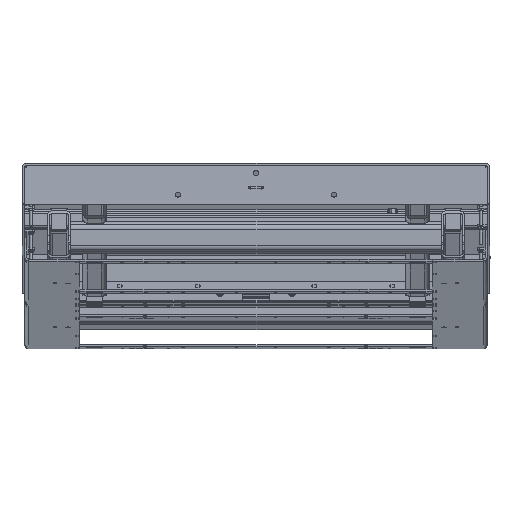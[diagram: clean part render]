
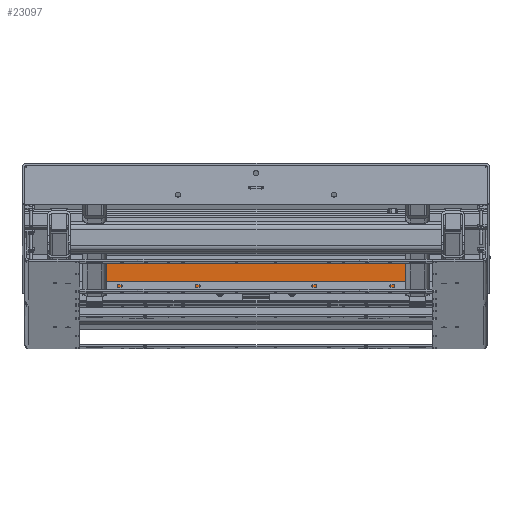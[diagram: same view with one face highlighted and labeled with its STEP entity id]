
A CAD part, front view. The second image highlights one B-rep face of the part: STEP entity #23097.
In plain terms, the highlighted planar face has unit normal (0, -1, 0) as drawn and (1, 0, 0) by its records, which use the part's own axes.
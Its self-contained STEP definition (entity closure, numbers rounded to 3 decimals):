
#1019=PLANE('',#25620);
#2973=LINE('',#39354,#5016);
#2974=LINE('',#39356,#5017);
#2975=LINE('',#39358,#5018);
#2976=LINE('',#39359,#5019);
#5016=VECTOR('',#32229,10.);
#5017=VECTOR('',#32230,10.);
#5018=VECTOR('',#32231,10.);
#5019=VECTOR('',#32232,10.);
#6584=FACE_OUTER_BOUND('',#8069,.T.);
#8069=EDGE_LOOP('',(#20983,#20984,#20985,#20986));
#11417=VERTEX_POINT('',#39352);
#11418=VERTEX_POINT('',#39353);
#11419=VERTEX_POINT('',#39355);
#11420=VERTEX_POINT('',#39357);
#14636=EDGE_CURVE('',#11417,#11418,#2973,.T.);
#14637=EDGE_CURVE('',#11419,#11418,#2974,.T.);
#14638=EDGE_CURVE('',#11420,#11419,#2975,.T.);
#14639=EDGE_CURVE('',#11420,#11417,#2976,.T.);
#20983=ORIENTED_EDGE('',*,*,#14636,.T.);
#20984=ORIENTED_EDGE('',*,*,#14637,.F.);
#20985=ORIENTED_EDGE('',*,*,#14638,.F.);
#20986=ORIENTED_EDGE('',*,*,#14639,.T.);
#23097=ADVANCED_FACE('',(#6584),#1019,.T.);
#25620=AXIS2_PLACEMENT_3D('',#39351,#32227,#32228);
#32227=DIRECTION('center_axis',(1.,0.,0.));
#32228=DIRECTION('ref_axis',(0.,0.,-1.));
#32229=DIRECTION('',(0.,-1.,0.));
#32230=DIRECTION('',(0.,0.,1.));
#32231=DIRECTION('',(0.,-1.,0.));
#32232=DIRECTION('',(0.,0.,1.));
#39351=CARTESIAN_POINT('Origin',(50.,40.,0.));
#39352=CARTESIAN_POINT('',(50.,40.,768.));
#39353=CARTESIAN_POINT('',(50.,-40.,768.));
#39354=CARTESIAN_POINT('',(50.,20.,768.));
#39355=CARTESIAN_POINT('',(50.,-40.,0.));
#39356=CARTESIAN_POINT('',(50.,-40.,0.));
#39357=CARTESIAN_POINT('',(50.,40.,0.));
#39358=CARTESIAN_POINT('',(50.,20.,0.));
#39359=CARTESIAN_POINT('',(50.,40.,0.));
